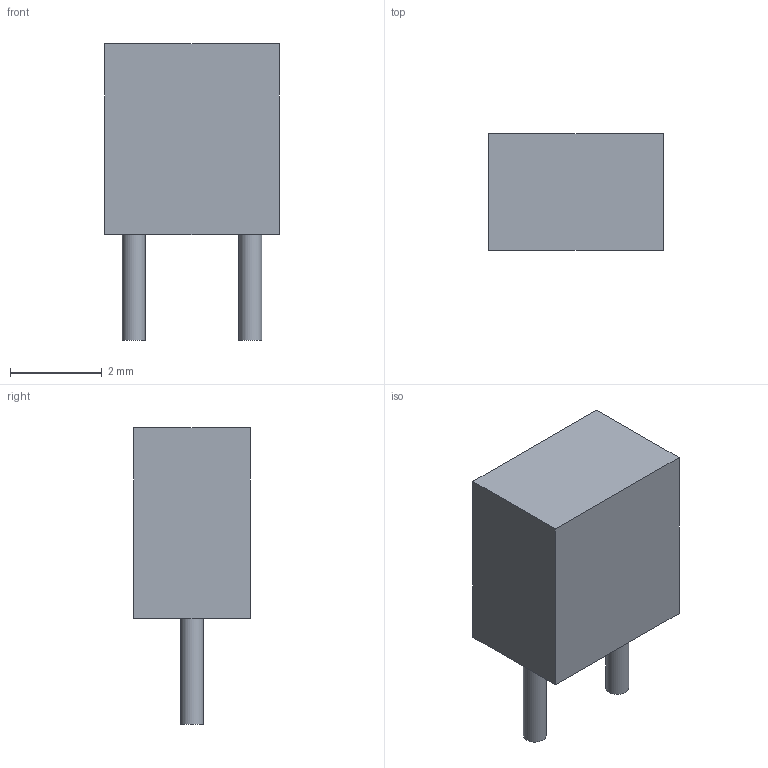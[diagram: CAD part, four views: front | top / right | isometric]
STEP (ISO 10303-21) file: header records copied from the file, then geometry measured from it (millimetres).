
FILE_DESCRIPTION(('Open CASCADE Model'),'2;1');
FILE_NAME('Open CASCADE Shape Model','2026-11-07T23:12:27',('Author'),( 'Open CASCADE'),'Open CASCADE STEP processor 7.9','Open CASCADE 7.9' ,'Unknown');
FILE_SCHEMA(('AUTOMOTIVE_DESIGN { 1 0 10303 214 1 1 1 1 }'));
Length unit declared in the file: millimetre
Products named in the file (4): KEMET-C315-envelope; ceramic-body; lead-0; lead-2.54
Assembly tree (3 placements, depth 2):
  KEMET-C315-envelope
    ceramic-body
    lead-0
    lead-2.54
Bounding box: 3.81 x 2.54 x 6.46 mm (x, y, z)
Volume: 41.2 mm3; surface area: 80.5 mm2
Topology: 3 solids, 3 shells, 12 faces, 18 edges, 12 vertices
Faces by surface type: plane 10, cylinder 2
Full cylindrical faces by diameter (mm): 0.5 x2
Entity records: 586 total; most frequent: DIRECTION 90, CARTESIAN_POINT 82, LINE 46, VECTOR 46, ORIENTED_EDGE 36, PCURVE 36, DEFINITIONAL_REPRESENTATION 36, AXIS2_PLACEMENT_3D 20
